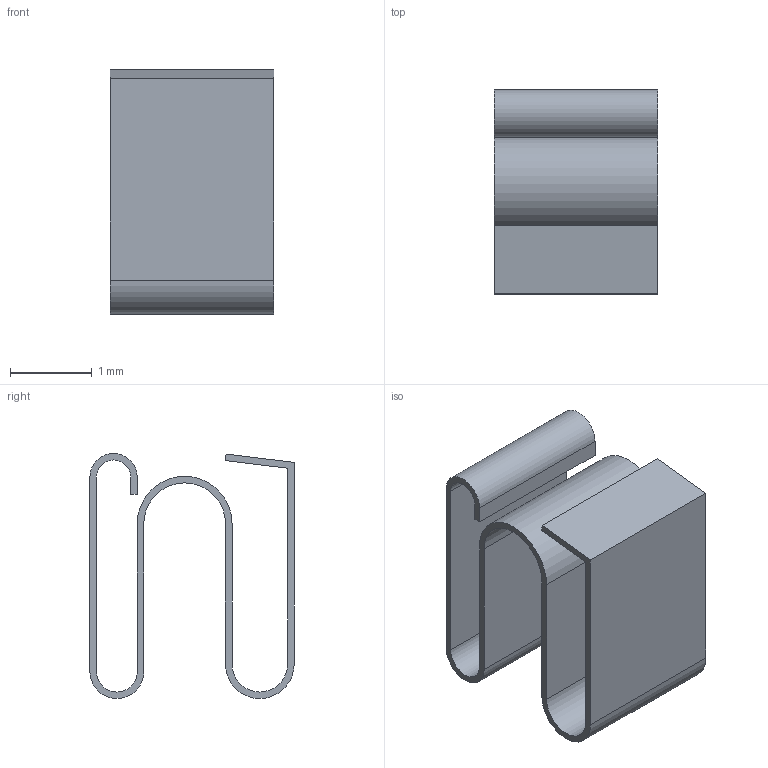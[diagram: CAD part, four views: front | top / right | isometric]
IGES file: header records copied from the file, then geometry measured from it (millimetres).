
Start section:  PTC IGES file: 3G2030025B.igs
Global section: file name: 3G2030025B.igs; native system: Creo Parametric by PTC Inc.; preprocessor: 2015200; author: jairo; organization: Unknown; date: 20180315.133222; units: millimetre
Bounding box: 2 x 2.5 x 3 mm (x, y, z)
Surface area: 58.3 mm2 (no closed solid volume)
Topology: 0 solids, 0 shells, 24 faces, 132 edges, 132 vertices
Faces by surface type: bspline 16, revolution 8
